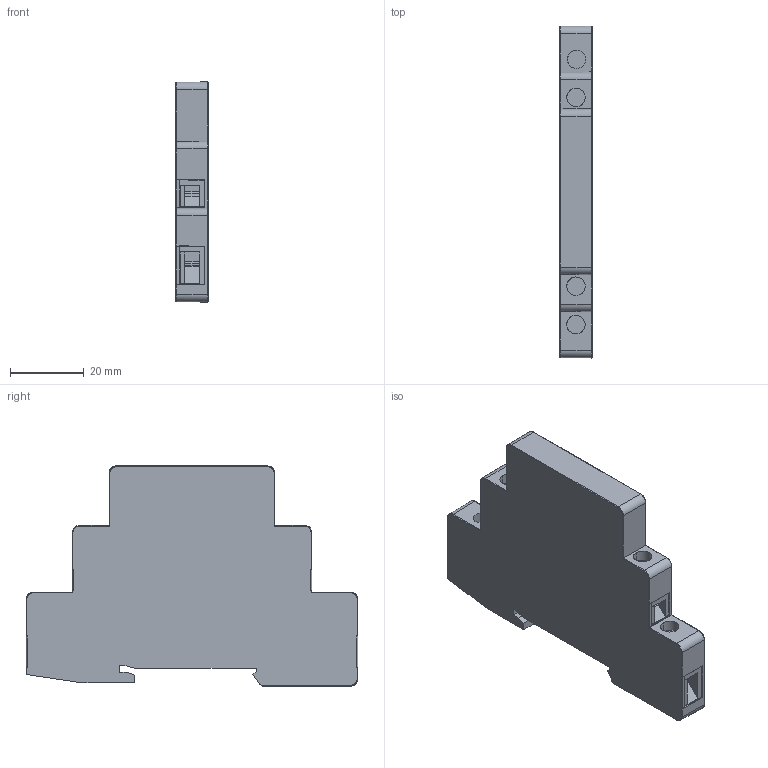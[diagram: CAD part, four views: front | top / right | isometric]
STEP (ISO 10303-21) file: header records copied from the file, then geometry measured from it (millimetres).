
FILE_DESCRIPTION (( 'STEP AP214' ), '1' );
FILE_NAME ('RBC-AUX-GM.STEP', '2024-04-15T09:00:56', ( '' ), ( '' ), 'SwSTEP 2.0', 'SolidWorks 2022', '' );
FILE_SCHEMA (( 'AUTOMOTIVE_DESIGN' ));
Length unit declared in the file: millimetre
Products named in the file (1): RBC-AUX-GM
Bounding box: 8.8 x 90 x 59.7 mm (x, y, z)
Volume: 33961.8 mm3; surface area: 11488.3 mm2
Topology: 1 solids, 3 shells, 252 faces, 658 edges, 416 vertices
Faces by surface type: plane 171, cylinder 55, bspline 21, cone 5
Entity records: 10018 total; most frequent: CARTESIAN_POINT 4008, ORIENTED_EDGE 1316, DIRECTION 1121, EDGE_CURVE 658, VECTOR 497, LINE 497, VERTEX_POINT 416, AXIS2_PLACEMENT_3D 312
